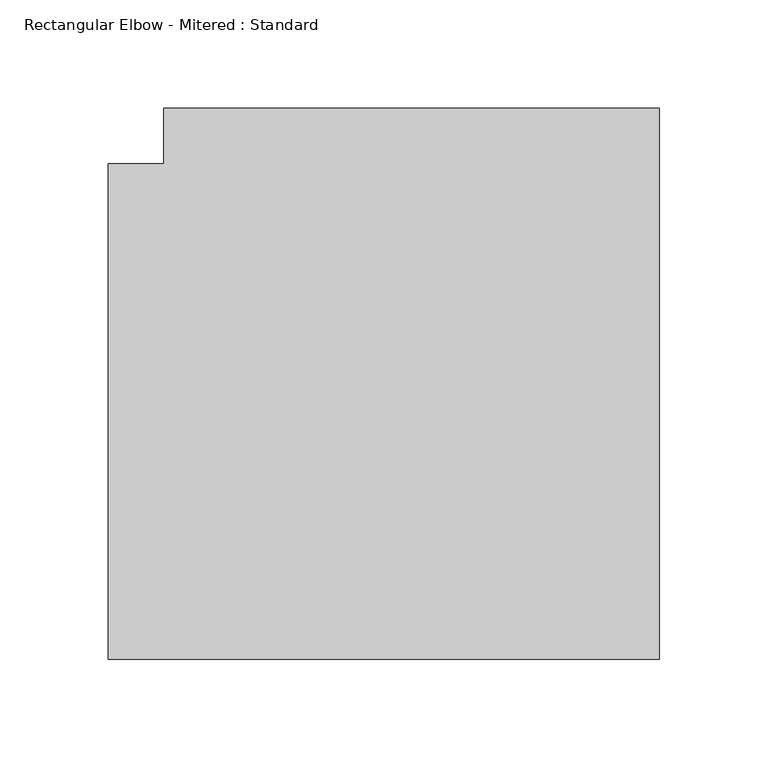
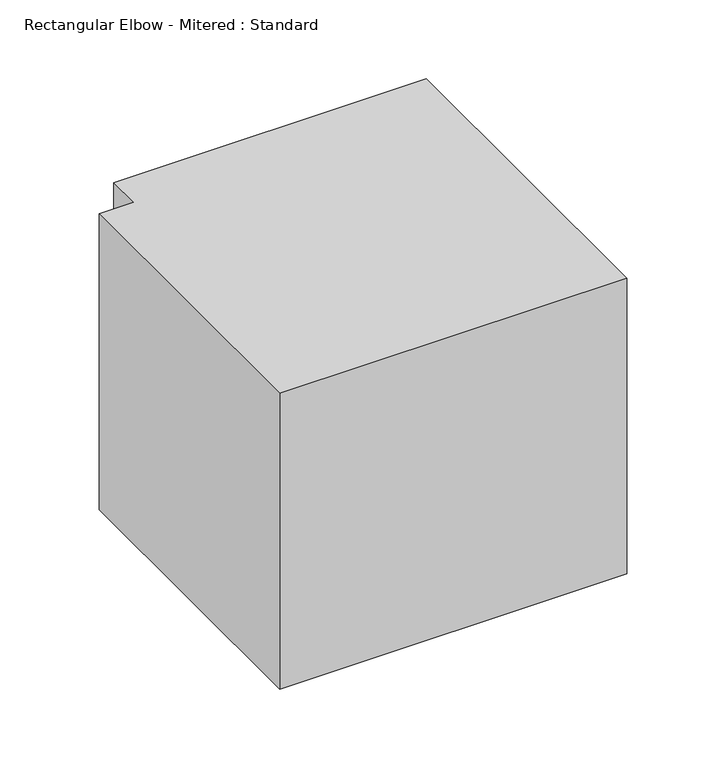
"""IFC4 building model written with IfcOpenShell, lengths in millimetres: duct fitting geometry, Rectangular Elbow - Mitered : Standard."""

from ifc_helpers import new_model, si_unit, frame, origin, place, context, project, spatial, polyline, outline, extrude, source, transform, mapped, element, save


def rectangular_elbow_mitered_standard_ce3c2c2c(model_context):
    return source(origin(), model_context, "Body", "SweptSolid", [
        extrude(outline(polyline([(-139.7, -114.3), (-139.7, 114.3), (-114.3, 114.3), (-114.3, 139.7), (114.3, 139.7), (114.3, -114.3), (-139.7, -114.3)])), frame((0.0, 0.0, -114.3), z_axis=(0.0, 0.0, 1.0), x_axis=(1.0, 0.0, 0.0)), (0.0, 0.0, 1.0), 228.6),
    ])


if __name__ == "__main__":
    model = new_model("IFC4")
    model_context = context("Model", 3, world=origin())
    ifc_project = project(units=[si_unit("LENGTHUNIT", "METRE", prefix="MILLI")], contexts=[model_context])
    site = spatial("IfcSite", under=ifc_project)
    building = spatial("IfcBuilding", under=site)
    placement = place(None, origin())
    rectangular_elbow_mitered_standard_shape = rectangular_elbow_mitered_standard_ce3c2c2c(model_context)
    element("IfcDuctFitting", 1, ObjectType="Rectangular Elbow - Mitered : Standard", at=placement, inside=building, context=model_context, shape_type="MappedRepresentation", body=[
        mapped(rectangular_elbow_mitered_standard_shape, transform((0.0, 0.0, 0.0), x_axis=(1.0, 0.0, 0.0), y_axis=(0.0, 1.0, 0.0), z_axis=(0.0, 0.0, 1.0))),
    ])
    save(model, "model.ifc")
